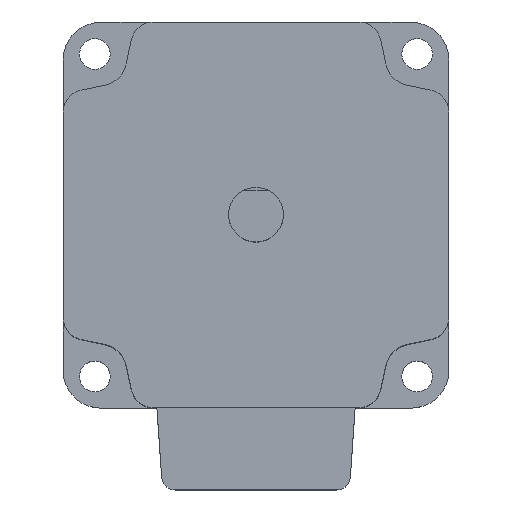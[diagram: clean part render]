
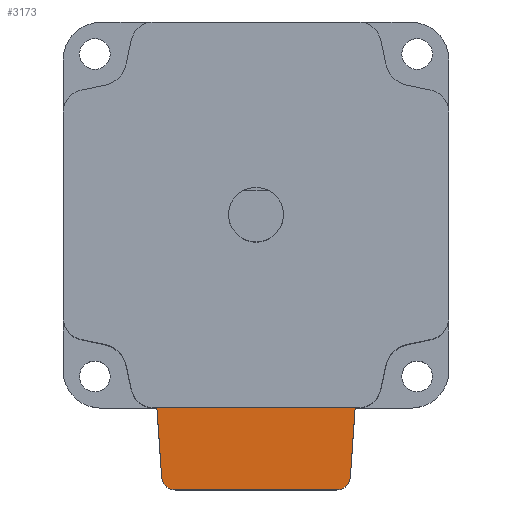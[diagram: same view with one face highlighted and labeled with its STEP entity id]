
A CAD part, top view. The second image highlights one B-rep face of the part: STEP entity #3173.
In plain terms, the highlighted planar face has unit normal (0, 0, 1).
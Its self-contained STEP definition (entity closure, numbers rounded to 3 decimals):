
#76 = DIRECTION ( 'NONE',  ( 0.07, -0.998, 0. ) ) ;
#126 = VERTEX_POINT ( 'NONE', #3266 ) ;
#221 = EDGE_CURVE ( 'NONE', #1467, #3640, #4470, .T. ) ;
#266 = ORIENTED_EDGE ( 'NONE', *, *, #4296, .T. ) ;
#344 = ORIENTED_EDGE ( 'NONE', *, *, #2058, .T. ) ;
#444 = DIRECTION ( 'NONE',  ( 1., 0., 0. ) ) ;
#469 = DIRECTION ( 'NONE',  ( 0., 0., 1. ) ) ;
#487 = PLANE ( 'NONE',  #4756 ) ;
#612 = VERTEX_POINT ( 'NONE', #1319 ) ;
#808 = CARTESIAN_POINT ( 'NONE',  ( 11.796, -40.2, 38.5 ) ) ;
#810 = CARTESIAN_POINT ( 'NONE',  ( -14.5, -28.2, 38.5 ) ) ;
#834 = VECTOR ( 'NONE', #2279, 1000. ) ;
#899 = EDGE_CURVE ( 'NONE', #3640, #126, #1369, .T. ) ;
#1038 = LINE ( 'NONE', #4912, #1451 ) ;
#1194 = VECTOR ( 'NONE', #1879, 1000. ) ;
#1275 = CARTESIAN_POINT ( 'NONE',  ( -11.796, -38.2, 38.5 ) ) ;
#1319 = CARTESIAN_POINT ( 'NONE',  ( -13.791, -38.34, 38.5 ) ) ;
#1369 = CIRCLE ( 'NONE', #1384, 2. ) ;
#1384 = AXIS2_PLACEMENT_3D ( 'NONE', #4007, #4001, #3989 ) ;
#1421 = VECTOR ( 'NONE', #1496, 1000. ) ;
#1451 = VECTOR ( 'NONE', #76, 1000. ) ;
#1467 = VERTEX_POINT ( 'NONE', #3051 ) ;
#1496 = DIRECTION ( 'NONE',  ( 1., 0., 0. ) ) ;
#1556 = DIRECTION ( 'NONE',  ( 0., 0., 1. ) ) ;
#1703 = CARTESIAN_POINT ( 'NONE',  ( -14.5, -28.2, 38.5 ) ) ;
#1857 = ORIENTED_EDGE ( 'NONE', *, *, #221, .T. ) ;
#1874 = CIRCLE ( 'NONE', #3456, 2. ) ;
#1879 = DIRECTION ( 'NONE',  ( -1., 0., 0. ) ) ;
#1911 = ORIENTED_EDGE ( 'NONE', *, *, #4641, .T. ) ;
#2058 = EDGE_CURVE ( 'NONE', #612, #1467, #1874, .T. ) ;
#2279 = DIRECTION ( 'NONE',  ( 0.07, 0.998, 0. ) ) ;
#2382 = VERTEX_POINT ( 'NONE', #1703 ) ;
#2646 = LINE ( 'NONE', #4048, #834 ) ;
#2669 = ORIENTED_EDGE ( 'NONE', *, *, #2784, .T. ) ;
#2709 = LINE ( 'NONE', #4672, #1194 ) ;
#2784 = EDGE_CURVE ( 'NONE', #126, #4587, #2646, .T. ) ;
#3051 = CARTESIAN_POINT ( 'NONE',  ( -11.796, -40.2, 38.5 ) ) ;
#3173 = ADVANCED_FACE ( 'NONE', ( #4291 ), #487, .T. ) ;
#3266 = CARTESIAN_POINT ( 'NONE',  ( 13.791, -38.34, 38.5 ) ) ;
#3302 = DIRECTION ( 'NONE',  ( 1., 0., 0. ) ) ;
#3456 = AXIS2_PLACEMENT_3D ( 'NONE', #1275, #1556, #3302 ) ;
#3487 = CARTESIAN_POINT ( 'NONE',  ( -13.661, -40.2, 38.5 ) ) ;
#3531 = ORIENTED_EDGE ( 'NONE', *, *, #899, .T. ) ;
#3640 = VERTEX_POINT ( 'NONE', #808 ) ;
#3684 = CARTESIAN_POINT ( 'NONE',  ( 14.5, -28.2, 38.5 ) ) ;
#3989 = DIRECTION ( 'NONE',  ( 1., 0., 0. ) ) ;
#4001 = DIRECTION ( 'NONE',  ( 0., 0., 1. ) ) ;
#4007 = CARTESIAN_POINT ( 'NONE',  ( 11.796, -38.2, 38.5 ) ) ;
#4048 = CARTESIAN_POINT ( 'NONE',  ( 13.661, -40.2, 38.5 ) ) ;
#4291 = FACE_OUTER_BOUND ( 'NONE', #4480, .T. ) ;
#4296 = EDGE_CURVE ( 'NONE', #4587, #2382, #2709, .T. ) ;
#4470 = LINE ( 'NONE', #3487, #1421 ) ;
#4480 = EDGE_LOOP ( 'NONE', ( #1911, #344, #1857, #3531, #2669, #266 ) ) ;
#4587 = VERTEX_POINT ( 'NONE', #3684 ) ;
#4641 = EDGE_CURVE ( 'NONE', #2382, #612, #1038, .T. ) ;
#4672 = CARTESIAN_POINT ( 'NONE',  ( 14.5, -28.2, 38.5 ) ) ;
#4756 = AXIS2_PLACEMENT_3D ( 'NONE', #810, #469, #444 ) ;
#4912 = CARTESIAN_POINT ( 'NONE',  ( -14.5, -28.2, 38.5 ) ) ;
